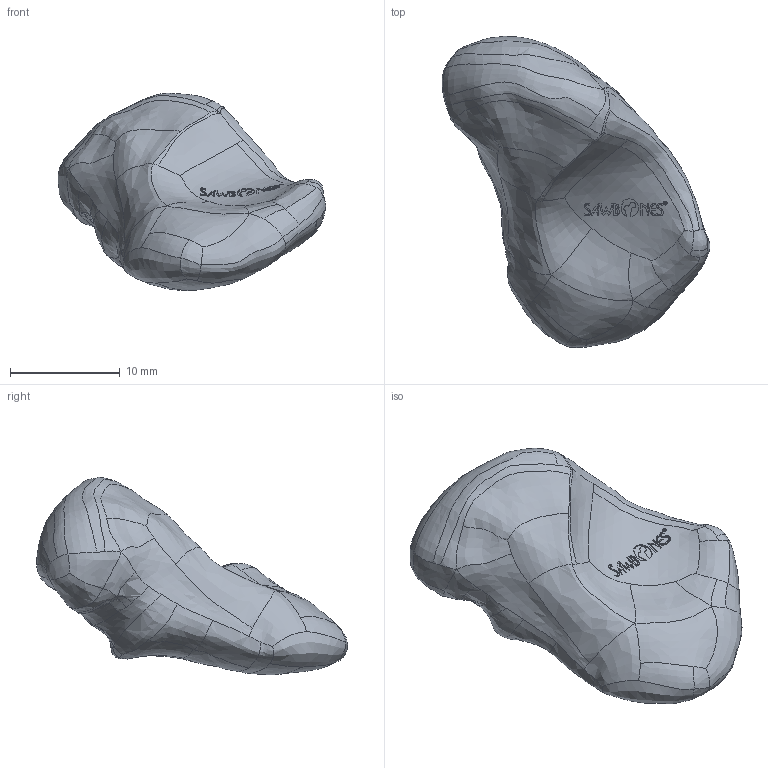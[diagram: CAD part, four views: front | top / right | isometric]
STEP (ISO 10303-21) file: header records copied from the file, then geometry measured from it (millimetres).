
FILE_DESCRIPTION (( 'STEP AP203' ), '1' );
FILE_NAME ('1010.STEP', '2025-04-29T20:22:38', ( '' ), ( '' ), 'SwSTEP 2.0', 'SolidWorks 2024', '' );
FILE_SCHEMA (( 'CONFIG_CONTROL_DESIGN' ));
Length unit declared in the file: millimetre
Products named in the file (1): 1010
Bounding box: 24.38 x 28.34 x 17.97 mm (x, y, z)
Volume: 3223 mm3; surface area: 1372.1 mm2
Topology: 1 solids, 1 shells, 299 faces, 807 edges, 524 vertices
Faces by surface type: bspline 252, plane 47
Entity records: 39457 total; most frequent: CARTESIAN_POINT 33874, ORIENTED_EDGE 1614, EDGE_CURVE 807, B_SPLINE_CURVE_WITH_KNOTS 616, VERTEX_POINT 524, EDGE_LOOP 313, FACE_OUTER_BOUND 299, ADVANCED_FACE 299
